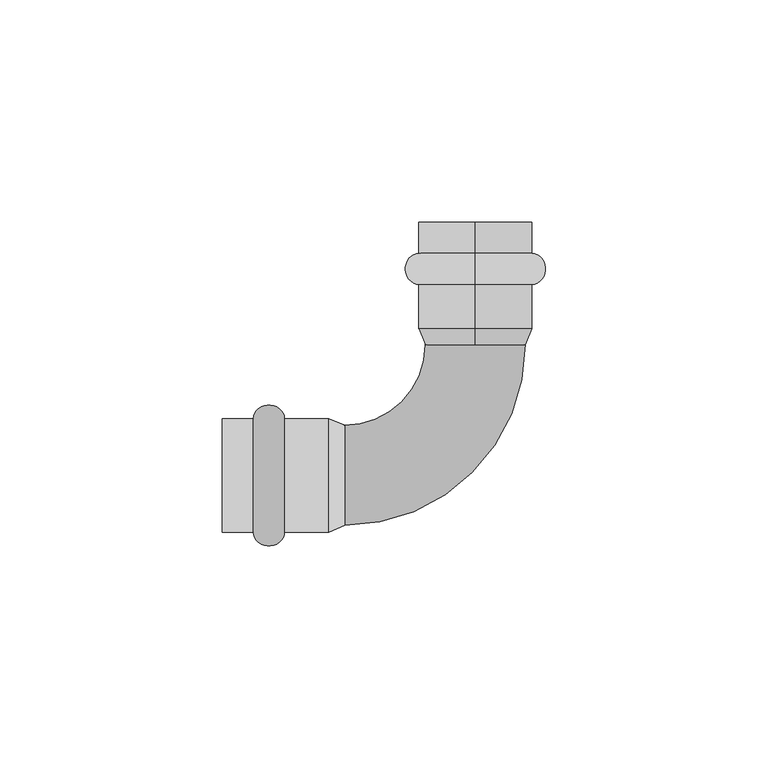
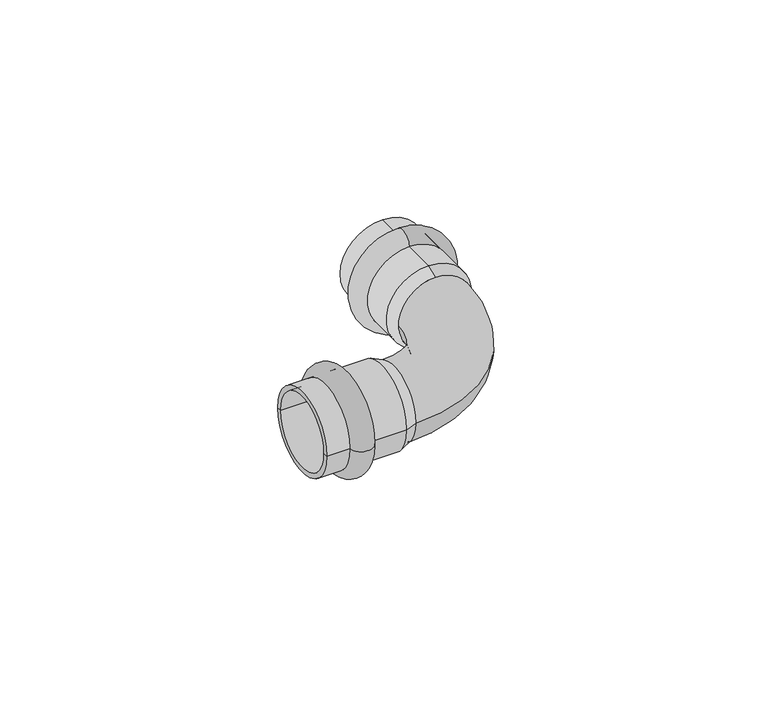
"""IFC4 building model written with IfcOpenShell, lengths in millimetres: pipe fitting geometry, РЕХАУ_Пресс Отвод : Отвод."""

from ifc_helpers import new_model, si_unit, point, frame, origin, place, context, project, spatial, polyline, circle_curve, ellipse_curve, trimmed, source, transform, mapped, element, save
from ifc_brep_helpers import plane_surface, cylinder_surface, revolved_surface, advanced_brep


def pipe_fitting_d2550256(model_context):
    return source(origin(), model_context, "Body", "AdvancedBrep", [
        advanced_brep(
        [(0.0, 50.0, 12.75), (0.0, 50.0, -12.75), (0.0, 43.0, -12.75), (0.0, 43.0, 12.75)],
        [
            (0, 1, circle_curve(frame((0.0, 50.0, 0.0), z_axis=(0.0, 1.0, 0.0), x_axis=(0.0, 0.0, -1.0)), 12.75)),
            (1, 2),
            (2, 3, circle_curve(frame((0.0, 43.0, 0.0), z_axis=(0.0, -1.0, 0.0), x_axis=(0.0, 0.0, -1.0)), 12.75)),
            (3, 0),
            (1, 0, circle_curve(frame((0.0, 50.0, 0.0), z_axis=(0.0, 1.0, 0.0), x_axis=(0.0, 0.0, -1.0)), 12.75)),
            (3, 2, circle_curve(frame((0.0, 43.0, 0.0), z_axis=(0.0, -1.0, 0.0), x_axis=(0.0, 0.0, -1.0)), 12.75)),
            (2, 1, ellipse_curve(frame((0.0, 46.5, -12.75), z_axis=(1.0, 0.0, 0.0), x_axis=(0.0, 1.0, 0.0)), 3.5, 3.1)),
            (0, 3, ellipse_curve(frame((0.0, 46.5, 12.75), z_axis=(1.0, 0.0, 0.0), x_axis=(0.0, 1.0, 0.0)), 3.5, 3.1)),
        ],
        [
            revolved_surface(polyline([(0.0, 43.0, -12.75), (0.0, 50.0, -12.75)]), (0.0, 30.0, 0.0), (0.0, -1.0, 0.0)),
            revolved_surface(trimmed(ellipse_curve(frame((0.0, 46.5, -12.75), z_axis=(-1.0, 0.0, 0.0), x_axis=(0.0, 1.0, 0.0)), 3.5, 3.1), [point((0.0, 50.0, -12.75))], [point((0.0, 43.0, -12.75))], True, "CARTESIAN"), (0.0, 30.0, 0.0), (0.0, -1.0, 0.0)),
        ],
        [
            (0, [[1, 2, 3, 4]]),
            (0, [[5, -4, 6, -2]]),
            (1, [[-3, 7, -1, 8]]),
            (1, [[-6, -8, -5, -7]]),
        ],
    ),
        advanced_brep(
        [(0.0, 29.4662215, 11.25), (0.0, 29.4662215, -11.25), (0.0, 33.0, -12.75), (0.0, 33.0, 12.75), (0.0, 57.0, 11.25), (0.0, 57.0, -11.25), (0.0, 57.0, 12.75), (0.0, 57.0, -12.75)],
        [
            (0, 1, circle_curve(frame((0.0, 29.4662215, 0.0), z_axis=(0.0, 1.0, 0.0), x_axis=(0.0, 0.0, -1.0)), 11.25)),
            (1, 2),
            (2, 3, circle_curve(frame((0.0, 33.0, 0.0), z_axis=(0.0, -1.0, 0.0), x_axis=(0.0, 0.0, -1.0)), 12.75)),
            (3, 0),
            (1, 0, circle_curve(frame((0.0, 29.4662215, 0.0), z_axis=(0.0, 1.0, 0.0), x_axis=(0.0, 0.0, -1.0)), 11.25)),
            (3, 2, circle_curve(frame((0.0, 33.0, 0.0), z_axis=(0.0, -1.0, 0.0), x_axis=(0.0, 0.0, -1.0)), 12.75)),
            (4, 5, circle_curve(frame((0.0, 57.0, 0.0), z_axis=(0.0, 1.0, 0.0), x_axis=(0.0, 0.0, -1.0)), 11.25)),
            (5, 1),
            (0, 4),
            (5, 4, circle_curve(frame((0.0, 57.0, 0.0), z_axis=(0.0, 1.0, 0.0), x_axis=(0.0, 0.0, -1.0)), 11.25)),
            (6, 7, circle_curve(frame((0.0, 57.0, 0.0), z_axis=(0.0, 1.0, 0.0), x_axis=(0.0, 0.0, -1.0)), 12.75)),
            (7, 5),
            (4, 6),
            (7, 6, circle_curve(frame((0.0, 57.0, 0.0), z_axis=(0.0, 1.0, 0.0), x_axis=(0.0, 0.0, -1.0)), 12.75)),
            (2, 7),
            (6, 3),
        ],
        [
            revolved_surface(polyline([(0.0, 33.0, -12.75), (0.0, 29.4662215, -11.25)]), (0.0, 30.0, 0.0), (0.0, -1.0, 0.0)),
            revolved_surface(polyline([(0.0, 29.4662215, -11.25), (0.0, 57.0, -11.25)]), (0.0, 30.0, 0.0), (0.0, -1.0, 0.0)),
            plane_surface(frame((0.0, 57.0, 0.0), z_axis=(0.0, 1.0, 0.0), x_axis=(0.0, 0.0, -1.0))),
            cylinder_surface(frame((0.0, 30.0, 0.0), z_axis=(0.0, -1.0, 0.0), x_axis=(0.0, 0.0, -1.0)), 12.75),
        ],
        [
            (0, [[1, 2, 3, 4]]),
            (0, [[5, -4, 6, -2]]),
            (1, [[7, 8, -1, 9]]),
            (1, [[10, -9, -5, -8]]),
            (2, [[11, 12, -7, 13]]),
            (2, [[14, -13, -10, -12]]),
            (3, [[-3, 15, -11, 16]]),
            (3, [[-6, -16, -14, -15]]),
        ],
    ),
        advanced_brep(
        [(-50.0, -12.75, 0.0), (-50.0, 12.75, 0.0), (-43.0, 12.75, 0.0), (-43.0, -12.75, 0.0)],
        [
            (0, 1, circle_curve(frame((-50.0, 0.0, 0.0), z_axis=(-1.0, 0.0, 0.0), x_axis=(0.0, 1.0, 0.0)), 12.75)),
            (1, 2),
            (2, 3, circle_curve(frame((-43.0, 0.0, 0.0), z_axis=(1.0, 0.0, 0.0), x_axis=(0.0, 1.0, 0.0)), 12.75)),
            (3, 0),
            (1, 0, circle_curve(frame((-50.0, 0.0, 0.0), z_axis=(-1.0, 0.0, 0.0), x_axis=(0.0, 1.0, 0.0)), 12.75)),
            (3, 2, circle_curve(frame((-43.0, 0.0, 0.0), z_axis=(1.0, 0.0, 0.0), x_axis=(0.0, 1.0, 0.0)), 12.75)),
            (2, 1, ellipse_curve(frame((-46.5, 12.75, 0.0), z_axis=(0.0, 0.0, 1.0), x_axis=(-1.0, 0.0, 0.0)), 3.5, 3.1)),
            (0, 3, ellipse_curve(frame((-46.5, -12.75, 0.0), z_axis=(0.0, 0.0, 1.0), x_axis=(-1.0, 0.0, 0.0)), 3.5, 3.1)),
        ],
        [
            revolved_surface(polyline([(-43.0, 12.75, 0.0), (-50.0, 12.75, 0.0)]), (-30.0, 0.0, 0.0), (1.0, 0.0, 0.0)),
            revolved_surface(trimmed(ellipse_curve(frame((-46.5, 12.75, 0.0), z_axis=(0.0, 0.0, -1.0), x_axis=(-1.0, 0.0, 0.0)), 3.5, 3.1), [point((-50.0, 12.75, 0.0))], [point((-43.0, 12.75, 0.0))], True, "CARTESIAN"), (-30.0, 0.0, 0.0), (1.0, 0.0, 0.0)),
        ],
        [
            (0, [[1, 2, 3, 4]]),
            (0, [[5, -4, 6, -2]]),
            (1, [[-3, 7, -1, 8]]),
            (1, [[-6, -8, -5, -7]]),
        ],
    ),
        advanced_brep(
        [(-29.4662215, -11.25, 0.0), (-29.4662215, 11.25, 0.0), (-33.0, 12.75, 0.0), (-33.0, -12.75, 0.0), (-57.0, -11.25, 0.0), (-57.0, 11.25, 0.0), (-57.0, -12.75, 0.0), (-57.0, 12.75, 0.0)],
        [
            (0, 1, circle_curve(frame((-29.4662215, 0.0, 0.0), z_axis=(-1.0, 0.0, 0.0), x_axis=(0.0, 1.0, 0.0)), 11.25)),
            (1, 2),
            (2, 3, circle_curve(frame((-33.0, 0.0, 0.0), z_axis=(1.0, 0.0, 0.0), x_axis=(0.0, 1.0, 0.0)), 12.75)),
            (3, 0),
            (1, 0, circle_curve(frame((-29.4662215, 0.0, 0.0), z_axis=(-1.0, 0.0, 0.0), x_axis=(0.0, 1.0, 0.0)), 11.25)),
            (3, 2, circle_curve(frame((-33.0, 0.0, 0.0), z_axis=(1.0, 0.0, 0.0), x_axis=(0.0, 1.0, 0.0)), 12.75)),
            (4, 5, circle_curve(frame((-57.0, 0.0, 0.0), z_axis=(-1.0, 0.0, 0.0), x_axis=(0.0, 1.0, 0.0)), 11.25)),
            (5, 1),
            (0, 4),
            (5, 4, circle_curve(frame((-57.0, 0.0, 0.0), z_axis=(-1.0, 0.0, 0.0), x_axis=(0.0, 1.0, 0.0)), 11.25)),
            (6, 7, circle_curve(frame((-57.0, 0.0, 0.0), z_axis=(-1.0, 0.0, 0.0), x_axis=(0.0, 1.0, 0.0)), 12.75)),
            (7, 5),
            (4, 6),
            (7, 6, circle_curve(frame((-57.0, 0.0, 0.0), z_axis=(-1.0, 0.0, 0.0), x_axis=(0.0, 1.0, 0.0)), 12.75)),
            (2, 7),
            (6, 3),
        ],
        [
            revolved_surface(polyline([(-33.0, 12.75, 0.0), (-29.4662215, 11.25, 0.0)]), (-30.0, 0.0, 0.0), (1.0, 0.0, 0.0)),
            revolved_surface(polyline([(-29.4662215, 11.25, 0.0), (-57.0, 11.25, 0.0)]), (-30.0, 0.0, 0.0), (1.0, 0.0, 0.0)),
            plane_surface(frame((-57.0, 0.0, 0.0), z_axis=(-1.0, 0.0, 0.0), x_axis=(0.0, 1.0, 0.0))),
            cylinder_surface(frame((-30.0, 0.0, 0.0), z_axis=(1.0, 0.0, 0.0), x_axis=(0.0, 1.0, 0.0)), 12.75),
        ],
        [
            (0, [[1, 2, 3, 4]]),
            (0, [[5, -4, 6, -2]]),
            (1, [[7, 8, -1, 9]]),
            (1, [[10, -9, -5, -8]]),
            (2, [[11, 12, -7, 13]]),
            (2, [[14, -13, -10, -12]]),
            (3, [[-3, 15, -11, 16]]),
            (3, [[-6, -16, -14, -15]]),
        ],
    ),
        advanced_brep(
        [(-11.25, 29.4662215, 0.0), (-29.4662215, 11.25, 0.0), (-29.4662215, -11.25, 0.0), (11.25, 29.4662215, 0.0), (-33.0, -11.25, 0.0), (-33.0, 11.25, 0.0), (11.25, 33.0, 0.0), (-11.25, 33.0, 0.0)],
        [
            (0, 1, circle_curve(frame((-29.4662215, 29.4662215, 0.0), z_axis=(0.0, 0.0, -1.0), x_axis=(0.0, -1.0, 0.0)), 18.2162215)),
            (1, 2, circle_curve(frame((-29.4662215, 0.0, 0.0), z_axis=(1.0, 0.0, 0.0), x_axis=(0.0, 1.0, 0.0)), 11.25)),
            (2, 3, circle_curve(frame((-29.4662215, 29.4662215, 0.0), z_axis=(0.0, 0.0, 1.0), x_axis=(0.0, -1.0, 0.0)), 40.7162215)),
            (3, 0, circle_curve(frame((0.0, 29.4662215, 0.0), z_axis=(0.0, -1.0, 0.0), x_axis=(-1.0, 0.0, 0.0)), 11.25)),
            (2, 1, circle_curve(frame((-29.4662215, 0.0, 0.0), z_axis=(1.0, 0.0, 0.0), x_axis=(0.0, 1.0, 0.0)), 11.25)),
            (0, 3, circle_curve(frame((0.0, 29.4662215, 0.0), z_axis=(0.0, -1.0, 0.0), x_axis=(-1.0, 0.0, 0.0)), 11.25)),
            (4, 5, circle_curve(frame((-33.0, 0.0, 0.0), z_axis=(-1.0, 0.0, 0.0), x_axis=(0.0, 1.0, 0.0)), 11.25)),
            (5, 4, circle_curve(frame((-33.0, 0.0, 0.0), z_axis=(-1.0, 0.0, 0.0), x_axis=(0.0, 1.0, 0.0)), 11.25)),
            (4, 2),
            (1, 5),
            (6, 7, circle_curve(frame((0.0, 33.0, 0.0), z_axis=(0.0, 1.0, 0.0), x_axis=(-1.0, 0.0, 0.0)), 11.25)),
            (7, 6, circle_curve(frame((0.0, 33.0, 0.0), z_axis=(0.0, 1.0, 0.0), x_axis=(-1.0, 0.0, 0.0)), 11.25)),
            (3, 6),
            (7, 0),
        ],
        [
            revolved_surface(trimmed(ellipse_curve(frame((-29.4662215, 0.0, 0.0), z_axis=(-1.0, 0.0, 0.0), x_axis=(0.0, 1.0, 0.0)), 11.25, 11.25), [point((-29.4662215, -11.25, 0.0))], [point((-29.4662215, 11.25, 0.0))], True, "CARTESIAN"), (-29.4662215, 29.4662215, 0.0), (0.0, 0.0, 1.0)),
            revolved_surface(trimmed(ellipse_curve(frame((-29.4662215, 0.0, 0.0), z_axis=(-1.0, 0.0, 0.0), x_axis=(0.0, 1.0, 0.0)), 11.25, 11.25), [point((-29.4662215, 11.25, 0.0))], [point((-29.4662215, -11.25, 0.0))], True, "CARTESIAN"), (-29.4662215, 29.4662215, 0.0), (0.0, 0.0, 1.0)),
            plane_surface(frame((-33.0, 0.0, 0.0), z_axis=(-1.0, 0.0, 0.0), x_axis=(0.0, 0.0, 1.0))),
            cylinder_surface(frame((-33.0, 0.0, 0.0), z_axis=(-1.0, 0.0, 0.0), x_axis=(0.0, 1.0, 0.0)), 11.25),
            plane_surface(frame((0.0, 33.0, 0.0), z_axis=(0.0, 1.0, 0.0), x_axis=(0.0, 0.0, 1.0))),
            cylinder_surface(frame((0.0, 29.4662215, 0.0), z_axis=(0.0, -1.0, 0.0), x_axis=(-1.0, 0.0, 0.0)), 11.25),
        ],
        [
            (0, [[1, 2, 3, 4]]),
            (1, [[-3, 5, -1, 6]]),
            (2, [[7, 8]]),
            (3, [[-7, 9, -2, 10]]),
            (3, [[-8, -10, -5, -9]]),
            (4, [[11, 12]]),
            (5, [[-4, 13, -12, 14]]),
            (5, [[-6, -14, -11, -13]]),
        ],
    ),
    ])


if __name__ == "__main__":
    model = new_model("IFC4")
    model_context = context("Model", 3, world=origin())
    ifc_project = project(units=[si_unit("LENGTHUNIT", "METRE", prefix="MILLI")], contexts=[model_context])
    site = spatial("IfcSite", under=ifc_project)
    building = spatial("IfcBuilding", under=site)
    placement = place(None, origin())
    pipe_fitting_shape = pipe_fitting_d2550256(model_context)
    element("IfcPipeFitting", 1, ObjectType="РЕХАУ_Пресс Отвод : Отвод", at=placement, inside=building, context=model_context, shape_type="MappedRepresentation", body=[
        mapped(pipe_fitting_shape, transform((0.0, 0.0, 0.0), x_axis=(1.0, 0.0, 0.0), y_axis=(0.0, 1.0, 0.0), z_axis=(0.0, 0.0, 1.0))),
    ])
    save(model, "model.ifc")
